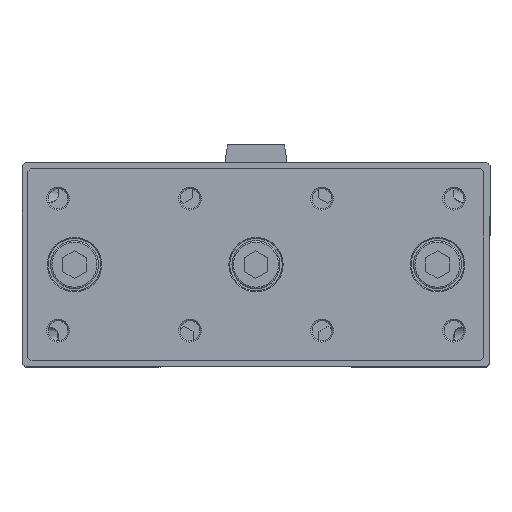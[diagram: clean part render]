
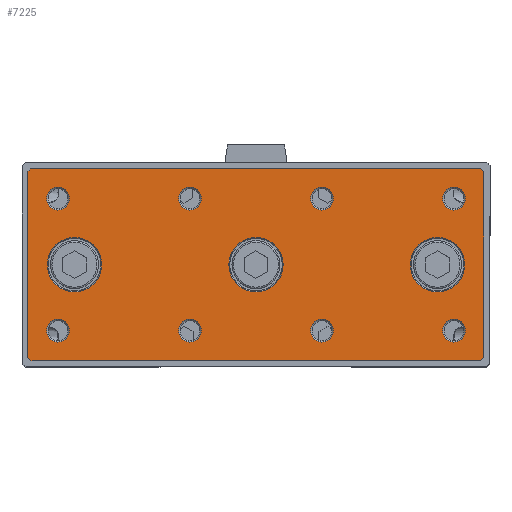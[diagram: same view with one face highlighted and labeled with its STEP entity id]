
A CAD part, top view. The second image highlights one B-rep face of the part: STEP entity #7225.
In plain terms, the highlighted planar face has unit normal (0, 0, 1).
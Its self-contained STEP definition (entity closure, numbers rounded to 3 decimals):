
#6983=CARTESIAN_POINT('',(-82.057,-30.206,146.6));
#6984=VERTEX_POINT('',#6983);
#6985=CARTESIAN_POINT('',(-83.057,-29.206,146.6));
#6986=VERTEX_POINT('',#6985);
#6987=CARTESIAN_POINT('',(-82.057,-30.206,146.6));
#6988=DIRECTION('',(-0.707,0.707,0.0));
#6989=VECTOR('',#6988,1.414);
#6990=LINE('',#6987,#6989);
#6991=EDGE_CURVE('',#6984,#6986,#6990,.T.);
#7024=CARTESIAN_POINT('',(-83.057,32.794,146.6));
#7025=VERTEX_POINT('',#7024);
#7026=CARTESIAN_POINT('',(-83.057,-29.206,146.6));
#7027=DIRECTION('',(0.0,1.0,0.0));
#7028=VECTOR('',#7027,62.);
#7029=LINE('',#7026,#7028);
#7030=EDGE_CURVE('',#6986,#7025,#7029,.T.);
#7049=CARTESIAN_POINT('',(-7.057,1.794,146.6));
#7050=DIRECTION('',(0.0,0.0,1.0));
#7051=DIRECTION('',(1.0,0.0,0.0));
#7052=AXIS2_PLACEMENT_3D('',#7049,#7050,#7051);
#7053=PLANE('',#7052);
#7054=ORIENTED_EDGE('',*,*,#6991,.F.);
#7055=CARTESIAN_POINT('',(67.943,-30.206,146.6));
#7056=VERTEX_POINT('',#7055);
#7057=CARTESIAN_POINT('',(67.943,-30.206,146.6));
#7058=DIRECTION('',(-1.0,0.0,0.0));
#7059=VECTOR('',#7058,150.0);
#7060=LINE('',#7057,#7059);
#7061=EDGE_CURVE('',#7056,#6984,#7060,.T.);
#7062=ORIENTED_EDGE('',*,*,#7061,.F.);
#7063=CARTESIAN_POINT('',(68.943,-29.206,146.6));
#7064=VERTEX_POINT('',#7063);
#7065=CARTESIAN_POINT('',(68.943,-29.206,146.6));
#7066=DIRECTION('',(-0.707,-0.707,0.0));
#7067=VECTOR('',#7066,1.414);
#7068=LINE('',#7065,#7067);
#7069=EDGE_CURVE('',#7064,#7056,#7068,.T.);
#7070=ORIENTED_EDGE('',*,*,#7069,.F.);
#7071=CARTESIAN_POINT('',(68.943,32.794,146.6));
#7072=VERTEX_POINT('',#7071);
#7073=CARTESIAN_POINT('',(68.943,32.794,146.6));
#7074=DIRECTION('',(0.0,-1.0,0.0));
#7075=VECTOR('',#7074,62.);
#7076=LINE('',#7073,#7075);
#7077=EDGE_CURVE('',#7072,#7064,#7076,.T.);
#7078=ORIENTED_EDGE('',*,*,#7077,.F.);
#7079=CARTESIAN_POINT('',(67.943,33.794,146.6));
#7080=VERTEX_POINT('',#7079);
#7081=CARTESIAN_POINT('',(67.943,33.794,146.6));
#7082=DIRECTION('',(0.707,-0.707,0.0));
#7083=VECTOR('',#7082,1.414);
#7084=LINE('',#7081,#7083);
#7085=EDGE_CURVE('',#7080,#7072,#7084,.T.);
#7086=ORIENTED_EDGE('',*,*,#7085,.F.);
#7087=CARTESIAN_POINT('',(-82.057,33.794,146.6));
#7088=VERTEX_POINT('',#7087);
#7089=CARTESIAN_POINT('',(-82.057,33.794,146.6));
#7090=DIRECTION('',(1.0,0.0,0.0));
#7091=VECTOR('',#7090,150.);
#7092=LINE('',#7089,#7091);
#7093=EDGE_CURVE('',#7088,#7080,#7092,.T.);
#7094=ORIENTED_EDGE('',*,*,#7093,.F.);
#7095=CARTESIAN_POINT('',(-83.057,32.794,146.6));
#7096=DIRECTION('',(0.707,0.707,0.0));
#7097=VECTOR('',#7096,1.414);
#7098=LINE('',#7095,#7097);
#7099=EDGE_CURVE('',#7025,#7088,#7098,.T.);
#7100=ORIENTED_EDGE('',*,*,#7099,.F.);
#7101=ORIENTED_EDGE('',*,*,#7030,.F.);
#7102=EDGE_LOOP('',(#7054,#7062,#7070,#7078,#7086,#7094,#7100,#7101));
#7103=FACE_OUTER_BOUND('',#7102,.T.);
#7104=CARTESIAN_POINT('',(-58.507,1.794,146.6));
#7105=VERTEX_POINT('',#7104);
#7106=CARTESIAN_POINT('',(-67.557,1.794,146.6));
#7107=DIRECTION('',(0.0,0.0,1.0));
#7108=DIRECTION('',(-1.0,0.0,0.0));
#7109=AXIS2_PLACEMENT_3D('',#7106,#7107,#7108);
#7110=CIRCLE('',#7109,9.05);
#7111=EDGE_CURVE('',#7105,#7105,#7110,.T.);
#7112=ORIENTED_EDGE('',*,*,#7111,.F.);
#7113=EDGE_LOOP('',(#7112));
#7114=FACE_BOUND('',#7113,.T.);
#7115=CARTESIAN_POINT('',(62.766,-20.206,146.6));
#7116=VERTEX_POINT('',#7115);
#7117=CARTESIAN_POINT('',(58.943,-20.206,146.6));
#7118=DIRECTION('',(0.0,0.0,1.0));
#7119=DIRECTION('',(-1.0,0.0,0.0));
#7120=AXIS2_PLACEMENT_3D('',#7117,#7118,#7119);
#7121=CIRCLE('',#7120,3.823);
#7122=EDGE_CURVE('',#7116,#7116,#7121,.T.);
#7123=ORIENTED_EDGE('',*,*,#7122,.F.);
#7124=EDGE_LOOP('',(#7123));
#7125=FACE_BOUND('',#7124,.T.);
#7126=CARTESIAN_POINT('',(-69.234,-20.206,146.6));
#7127=VERTEX_POINT('',#7126);
#7128=CARTESIAN_POINT('',(-73.057,-20.206,146.6));
#7129=DIRECTION('',(0.0,0.0,1.0));
#7130=DIRECTION('',(-1.0,0.0,0.0));
#7131=AXIS2_PLACEMENT_3D('',#7128,#7129,#7130);
#7132=CIRCLE('',#7131,3.823);
#7133=EDGE_CURVE('',#7127,#7127,#7132,.T.);
#7134=ORIENTED_EDGE('',*,*,#7133,.F.);
#7135=EDGE_LOOP('',(#7134));
#7136=FACE_BOUND('',#7135,.T.);
#7137=CARTESIAN_POINT('',(62.766,23.794,146.6));
#7138=VERTEX_POINT('',#7137);
#7139=CARTESIAN_POINT('',(58.943,23.794,146.6));
#7140=DIRECTION('',(0.0,0.0,1.0));
#7141=DIRECTION('',(-1.0,0.0,0.0));
#7142=AXIS2_PLACEMENT_3D('',#7139,#7140,#7141);
#7143=CIRCLE('',#7142,3.823);
#7144=EDGE_CURVE('',#7138,#7138,#7143,.T.);
#7145=ORIENTED_EDGE('',*,*,#7144,.F.);
#7146=EDGE_LOOP('',(#7145));
#7147=FACE_BOUND('',#7146,.T.);
#7148=CARTESIAN_POINT('',(-69.234,23.794,146.6));
#7149=VERTEX_POINT('',#7148);
#7150=CARTESIAN_POINT('',(-73.057,23.794,146.6));
#7151=DIRECTION('',(0.0,0.0,1.0));
#7152=DIRECTION('',(-1.0,0.0,0.0));
#7153=AXIS2_PLACEMENT_3D('',#7150,#7151,#7152);
#7154=CIRCLE('',#7153,3.823);
#7155=EDGE_CURVE('',#7149,#7149,#7154,.T.);
#7156=ORIENTED_EDGE('',*,*,#7155,.F.);
#7157=EDGE_LOOP('',(#7156));
#7158=FACE_BOUND('',#7157,.T.);
#7159=CARTESIAN_POINT('',(18.766,-20.206,146.6));
#7160=VERTEX_POINT('',#7159);
#7161=CARTESIAN_POINT('',(14.943,-20.206,146.6));
#7162=DIRECTION('',(0.0,0.0,1.0));
#7163=DIRECTION('',(-1.0,0.0,0.0));
#7164=AXIS2_PLACEMENT_3D('',#7161,#7162,#7163);
#7165=CIRCLE('',#7164,3.824);
#7166=EDGE_CURVE('',#7160,#7160,#7165,.T.);
#7167=ORIENTED_EDGE('',*,*,#7166,.F.);
#7168=EDGE_LOOP('',(#7167));
#7169=FACE_BOUND('',#7168,.T.);
#7170=CARTESIAN_POINT('',(-25.234,-20.206,146.6));
#7171=VERTEX_POINT('',#7170);
#7172=CARTESIAN_POINT('',(-29.057,-20.206,146.6));
#7173=DIRECTION('',(0.0,0.0,1.0));
#7174=DIRECTION('',(-1.0,0.0,0.0));
#7175=AXIS2_PLACEMENT_3D('',#7172,#7173,#7174);
#7176=CIRCLE('',#7175,3.823);
#7177=EDGE_CURVE('',#7171,#7171,#7176,.T.);
#7178=ORIENTED_EDGE('',*,*,#7177,.F.);
#7179=EDGE_LOOP('',(#7178));
#7180=FACE_BOUND('',#7179,.T.);
#7181=CARTESIAN_POINT('',(18.766,23.794,146.6));
#7182=VERTEX_POINT('',#7181);
#7183=CARTESIAN_POINT('',(14.943,23.794,146.6));
#7184=DIRECTION('',(0.0,0.0,1.0));
#7185=DIRECTION('',(-1.0,0.0,0.0));
#7186=AXIS2_PLACEMENT_3D('',#7183,#7184,#7185);
#7187=CIRCLE('',#7186,3.824);
#7188=EDGE_CURVE('',#7182,#7182,#7187,.T.);
#7189=ORIENTED_EDGE('',*,*,#7188,.F.);
#7190=EDGE_LOOP('',(#7189));
#7191=FACE_BOUND('',#7190,.T.);
#7192=CARTESIAN_POINT('',(-25.234,23.794,146.6));
#7193=VERTEX_POINT('',#7192);
#7194=CARTESIAN_POINT('',(-29.057,23.794,146.6));
#7195=DIRECTION('',(0.0,0.0,1.0));
#7196=DIRECTION('',(-1.0,0.0,0.0));
#7197=AXIS2_PLACEMENT_3D('',#7194,#7195,#7196);
#7198=CIRCLE('',#7197,3.823);
#7199=EDGE_CURVE('',#7193,#7193,#7198,.T.);
#7200=ORIENTED_EDGE('',*,*,#7199,.F.);
#7201=EDGE_LOOP('',(#7200));
#7202=FACE_BOUND('',#7201,.T.);
#7203=CARTESIAN_POINT('',(62.493,1.794,146.6));
#7204=VERTEX_POINT('',#7203);
#7205=CARTESIAN_POINT('',(53.443,1.794,146.6));
#7206=DIRECTION('',(0.0,0.0,1.0));
#7207=DIRECTION('',(-1.0,0.0,0.0));
#7208=AXIS2_PLACEMENT_3D('',#7205,#7206,#7207);
#7209=CIRCLE('',#7208,9.05);
#7210=EDGE_CURVE('',#7204,#7204,#7209,.T.);
#7211=ORIENTED_EDGE('',*,*,#7210,.F.);
#7212=EDGE_LOOP('',(#7211));
#7213=FACE_BOUND('',#7212,.T.);
#7214=CARTESIAN_POINT('',(1.993,1.794,146.6));
#7215=VERTEX_POINT('',#7214);
#7216=CARTESIAN_POINT('',(-7.057,1.794,146.6));
#7217=DIRECTION('',(0.0,0.0,1.0));
#7218=DIRECTION('',(-1.0,0.0,0.0));
#7219=AXIS2_PLACEMENT_3D('',#7216,#7217,#7218);
#7220=CIRCLE('',#7219,9.05);
#7221=EDGE_CURVE('',#7215,#7215,#7220,.T.);
#7222=ORIENTED_EDGE('',*,*,#7221,.F.);
#7223=EDGE_LOOP('',(#7222));
#7224=FACE_BOUND('',#7223,.T.);
#7225=ADVANCED_FACE('',(#7103,#7114,#7125,#7136,#7147,#7158,#7169,#7180,#7191,#7202,#7213,#7224),#7053,.T.);
